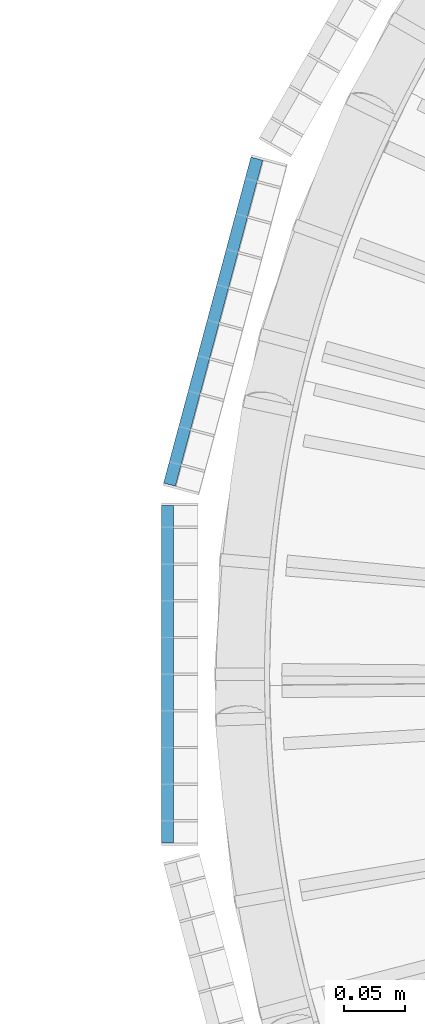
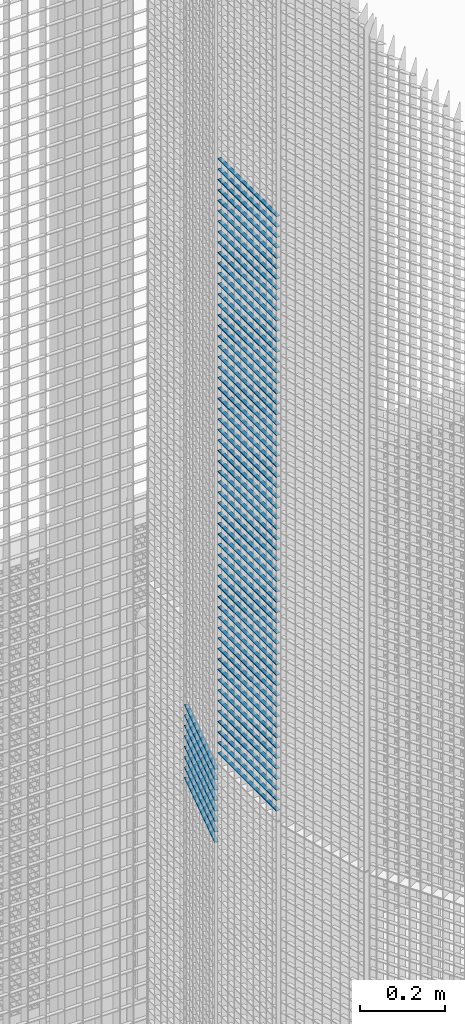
# One storey, part 183 of 1148: 66 beams, 2 elements without a shape of their own.
"""IFC2X3 building model written with IfcOpenShell, lengths in millimetres."""

from ifc_helpers import new_model, si_unit, frame, origin_with_axes, origin_2d_with_axis, place, context, subcontext, project, spatial, rectangle, extrude, material, type_object, element, aggregate, save


model = new_model("IFC2X3")

# Units and contexts
model_context = context("Model", 3, precision=1e-05, world=origin_with_axes())
body_context = subcontext(model_context, "Body", "Model", "MODEL_VIEW")
ifc_project = project(units=[si_unit("LENGTHUNIT", "METRE", prefix="MILLI"), si_unit("AREAUNIT", "SQUARE_METRE"), si_unit("VOLUMEUNIT", "CUBIC_METRE"), si_unit("MASSUNIT", "GRAM", prefix="KILO"), si_unit("TIMEUNIT", "SECOND"), si_unit("PLANEANGLEUNIT", "RADIAN"), si_unit("SOLIDANGLEUNIT", "STERADIAN"), si_unit("THERMODYNAMICTEMPERATUREUNIT", "DEGREE_CELSIUS"), si_unit("LUMINOUSINTENSITYUNIT", "LUMEN")], contexts=[model_context])

# Site, building, storey
site_placement = place(None, origin_with_axes())
site = spatial("IfcSite", under=ifc_project, at=site_placement, Name="Undefined", CompositionType="ELEMENT")
building_placement = place(site_placement, origin_with_axes())
building = spatial("IfcBuilding", under=site, at=building_placement, Name="Undefined", CompositionType="ELEMENT")
storey_placement = place(building_placement, origin_with_axes())
storey = spatial("IfcBuildingStorey", under=building, at=storey_placement, Name="Undefined", CompositionType="ELEMENT", Elevation=0.0)

# Assembly, beams
assembly_1_placement = place(storey_placement, origin_with_axes())
assembly_1 = element("IfcElementAssembly", 1, at=assembly_1_placement, inside=storey, Name="BORDURE", AssemblyPlace="NOTDEFINED", PredefinedType="NOTDEFINED")
ifc_material = material(Name="STEEL/S235JR")
beam_type = type_object("IfcBeamType", Name="PL2*10", PredefinedType="NOTDEFINED")
beam_1_placement = place(assembly_1_placement, frame((-1113.47999999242, 137.996003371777, 16740.0), z_axis=(-1.0, 0.0, 0.0), x_axis=(0.0, -1.0, 0.0)))
beam_1 = element("IfcBeam", 2, at=beam_1_placement, type_object=beam_type, material=ifc_material, Name="ENTRETOISE", context=body_context, shape_type="SweptSolid", body=[
    extrude(rectangle(XDim=2.0, YDim=10.0, at=origin_2d_with_axis()), frame((275.999999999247, 9.09494701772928e-13, 1.53210777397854e-14), z_axis=(-1.0, 0.0, 0.0), x_axis=(0.0, -1.0, 0.0)), (0.0, 0.0, 1.0), 276.0),
])
beam_2_placement = place(assembly_1_placement, frame((-1113.47999999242, 137.996003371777, 16710.0), z_axis=(-1.0, 0.0, 0.0), x_axis=(0.0, -1.0, 0.0)))
beam_2 = element("IfcBeam", 3, at=beam_2_placement, type_object=beam_type, material=ifc_material, Name="ENTRETOISE", context=body_context, shape_type="SweptSolid", body=[
    extrude(rectangle(XDim=2.0, YDim=10.0, at=origin_2d_with_axis()), frame((275.999999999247, 9.09494701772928e-13, 1.53210777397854e-14), z_axis=(-1.0, 0.0, 0.0), x_axis=(0.0, -1.0, 0.0)), (0.0, 0.0, 1.0), 276.0),
])
beam_3_placement = place(assembly_1_placement, frame((-1113.47999999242, 137.996003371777, 16680.0), z_axis=(-1.0, 0.0, 0.0), x_axis=(0.0, -1.0, 0.0)))
beam_3 = element("IfcBeam", 4, at=beam_3_placement, type_object=beam_type, material=ifc_material, Name="ENTRETOISE", context=body_context, shape_type="SweptSolid", body=[
    extrude(rectangle(XDim=2.0, YDim=10.0, at=origin_2d_with_axis()), frame((275.999999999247, 9.09494701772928e-13, 1.53210777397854e-14), z_axis=(-1.0, 0.0, 0.0), x_axis=(0.0, -1.0, 0.0)), (0.0, 0.0, 1.0), 276.0),
])
beam_4_placement = place(assembly_1_placement, frame((-1113.47999999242, 137.996003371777, 16650.0), z_axis=(-1.0, 0.0, 0.0), x_axis=(0.0, -1.0, 0.0)))
beam_4 = element("IfcBeam", 5, at=beam_4_placement, type_object=beam_type, material=ifc_material, Name="ENTRETOISE", context=body_context, shape_type="SweptSolid", body=[
    extrude(rectangle(XDim=2.0, YDim=10.0, at=origin_2d_with_axis()), frame((275.999999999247, 9.09494701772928e-13, 1.53210777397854e-14), z_axis=(-1.0, 0.0, 0.0), x_axis=(0.0, -1.0, 0.0)), (0.0, 0.0, 1.0), 276.0),
])
beam_5_placement = place(assembly_1_placement, frame((-1113.47999999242, 137.996003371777, 16620.0), z_axis=(-1.0, 0.0, 0.0), x_axis=(0.0, -1.0, 0.0)))
beam_5 = element("IfcBeam", 6, at=beam_5_placement, type_object=beam_type, material=ifc_material, Name="ENTRETOISE", context=body_context, shape_type="SweptSolid", body=[
    extrude(rectangle(XDim=2.0, YDim=10.0, at=origin_2d_with_axis()), frame((275.999999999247, 9.09494701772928e-13, 1.53210777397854e-14), z_axis=(-1.0, 0.0, 0.0), x_axis=(0.0, -1.0, 0.0)), (0.0, 0.0, 1.0), 276.0),
])
beam_6_placement = place(assembly_1_placement, frame((-1113.47999999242, 137.996003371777, 16590.0), z_axis=(-1.0, 0.0, 0.0), x_axis=(0.0, -1.0, 0.0)))
beam_6 = element("IfcBeam", 7, at=beam_6_placement, type_object=beam_type, material=ifc_material, Name="ENTRETOISE", context=body_context, shape_type="SweptSolid", body=[
    extrude(rectangle(XDim=2.0, YDim=10.0, at=origin_2d_with_axis()), frame((275.999999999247, 9.09494701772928e-13, 1.53210777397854e-14), z_axis=(-1.0, 0.0, 0.0), x_axis=(0.0, -1.0, 0.0)), (0.0, 0.0, 1.0), 276.0),
])
beam_7_placement = place(assembly_1_placement, frame((-1113.47999999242, 137.996003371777, 16560.0), z_axis=(-1.0, 0.0, 0.0), x_axis=(0.0, -1.0, 0.0)))
beam_7 = element("IfcBeam", 8, at=beam_7_placement, type_object=beam_type, material=ifc_material, Name="ENTRETOISE", context=body_context, shape_type="SweptSolid", body=[
    extrude(rectangle(XDim=2.0, YDim=10.0, at=origin_2d_with_axis()), frame((275.999999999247, 9.09494701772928e-13, 1.53210777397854e-14), z_axis=(-1.0, 0.0, 0.0), x_axis=(0.0, -1.0, 0.0)), (0.0, 0.0, 1.0), 276.0),
])
beam_8_placement = place(assembly_1_placement, frame((-1113.47999999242, 137.996003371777, 16530.0), z_axis=(-1.0, 0.0, 0.0), x_axis=(0.0, -1.0, 0.0)))
beam_8 = element("IfcBeam", 9, at=beam_8_placement, type_object=beam_type, material=ifc_material, Name="ENTRETOISE", context=body_context, shape_type="SweptSolid", body=[
    extrude(rectangle(XDim=2.0, YDim=10.0, at=origin_2d_with_axis()), frame((275.999999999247, 9.09494701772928e-13, 1.53210777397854e-14), z_axis=(-1.0, 0.0, 0.0), x_axis=(0.0, -1.0, 0.0)), (0.0, 0.0, 1.0), 276.0),
])
beam_9_placement = place(assembly_1_placement, frame((-1113.47999999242, 137.996003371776, 16500.0), z_axis=(-1.0, 0.0, 0.0), x_axis=(0.0, -1.0, 0.0)))
beam_9 = element("IfcBeam", 10, at=beam_9_placement, type_object=beam_type, material=ifc_material, Name="ENTRETOISE", context=body_context, shape_type="SweptSolid", body=[
    extrude(rectangle(XDim=2.0, YDim=10.0, at=origin_2d_with_axis()), frame((275.999999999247, 9.09494701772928e-13, 1.53210777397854e-14), z_axis=(-1.0, 0.0, 0.0), x_axis=(0.0, -1.0, 0.0)), (0.0, 0.0, 1.0), 276.0),
])
beam_10_placement = place(assembly_1_placement, frame((-1113.47999999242, 137.996003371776, 16470.0), z_axis=(-1.0, 0.0, 0.0), x_axis=(0.0, -1.0, 0.0)))
beam_10 = element("IfcBeam", 11, at=beam_10_placement, type_object=beam_type, material=ifc_material, Name="ENTRETOISE", context=body_context, shape_type="SweptSolid", body=[
    extrude(rectangle(XDim=2.0, YDim=10.0, at=origin_2d_with_axis()), frame((275.999999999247, 9.09494701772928e-13, 1.53210777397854e-14), z_axis=(-1.0, 0.0, 0.0), x_axis=(0.0, -1.0, 0.0)), (0.0, 0.0, 1.0), 276.0),
])
beam_11_placement = place(assembly_1_placement, frame((-1113.47999999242, 137.996003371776, 16440.0), z_axis=(-1.0, 0.0, 0.0), x_axis=(0.0, -1.0, 0.0)))
beam_11 = element("IfcBeam", 12, at=beam_11_placement, type_object=beam_type, material=ifc_material, Name="ENTRETOISE", context=body_context, shape_type="SweptSolid", body=[
    extrude(rectangle(XDim=2.0, YDim=10.0, at=origin_2d_with_axis()), frame((275.999999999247, 9.09494701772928e-13, 1.53210777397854e-14), z_axis=(-1.0, 0.0, 0.0), x_axis=(0.0, -1.0, 0.0)), (0.0, 0.0, 1.0), 276.0),
])
beam_12_placement = place(assembly_1_placement, frame((-1113.47999999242, 137.996003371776, 16410.0), z_axis=(-1.0, 0.0, 0.0), x_axis=(0.0, -1.0, 0.0)))
beam_12 = element("IfcBeam", 13, at=beam_12_placement, type_object=beam_type, material=ifc_material, Name="ENTRETOISE", context=body_context, shape_type="SweptSolid", body=[
    extrude(rectangle(XDim=2.0, YDim=10.0, at=origin_2d_with_axis()), frame((275.999999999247, 9.09494701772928e-13, 1.53210777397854e-14), z_axis=(-1.0, 0.0, 0.0), x_axis=(0.0, -1.0, 0.0)), (0.0, 0.0, 1.0), 276.0),
])
beam_13_placement = place(assembly_1_placement, frame((-1113.47999999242, 137.996003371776, 16380.0), z_axis=(-1.0, 0.0, 0.0), x_axis=(0.0, -1.0, 0.0)))
beam_13 = element("IfcBeam", 14, at=beam_13_placement, type_object=beam_type, material=ifc_material, Name="ENTRETOISE", context=body_context, shape_type="SweptSolid", body=[
    extrude(rectangle(XDim=2.0, YDim=10.0, at=origin_2d_with_axis()), frame((275.999999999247, 9.09494701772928e-13, 1.53210777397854e-14), z_axis=(-1.0, 0.0, 0.0), x_axis=(0.0, -1.0, 0.0)), (0.0, 0.0, 1.0), 276.0),
])
beam_14_placement = place(assembly_1_placement, frame((-1113.47999999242, 137.996003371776, 16350.0), z_axis=(-1.0, 0.0, 0.0), x_axis=(0.0, -1.0, 0.0)))
beam_14 = element("IfcBeam", 15, at=beam_14_placement, type_object=beam_type, material=ifc_material, Name="ENTRETOISE", context=body_context, shape_type="SweptSolid", body=[
    extrude(rectangle(XDim=2.0, YDim=10.0, at=origin_2d_with_axis()), frame((275.999999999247, 9.09494701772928e-13, 1.53210777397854e-14), z_axis=(-1.0, 0.0, 0.0), x_axis=(0.0, -1.0, 0.0)), (0.0, 0.0, 1.0), 276.0),
])
beam_15_placement = place(assembly_1_placement, frame((-1113.47999999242, 137.996003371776, 16320.0), z_axis=(-1.0, 0.0, 0.0), x_axis=(0.0, -1.0, 0.0)))
beam_15 = element("IfcBeam", 16, at=beam_15_placement, type_object=beam_type, material=ifc_material, Name="ENTRETOISE", context=body_context, shape_type="SweptSolid", body=[
    extrude(rectangle(XDim=2.0, YDim=10.0, at=origin_2d_with_axis()), frame((275.999999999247, 9.09494701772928e-13, 1.53210777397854e-14), z_axis=(-1.0, 0.0, 0.0), x_axis=(0.0, -1.0, 0.0)), (0.0, 0.0, 1.0), 276.0),
])
beam_16_placement = place(assembly_1_placement, frame((-1113.47999999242, 137.996003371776, 16290.0), z_axis=(-1.0, 0.0, 0.0), x_axis=(0.0, -1.0, 0.0)))
beam_16 = element("IfcBeam", 17, at=beam_16_placement, type_object=beam_type, material=ifc_material, Name="ENTRETOISE", context=body_context, shape_type="SweptSolid", body=[
    extrude(rectangle(XDim=2.0, YDim=10.0, at=origin_2d_with_axis()), frame((275.999999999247, 9.09494701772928e-13, 1.53210777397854e-14), z_axis=(-1.0, 0.0, 0.0), x_axis=(0.0, -1.0, 0.0)), (0.0, 0.0, 1.0), 276.0),
])
beam_17_placement = place(assembly_1_placement, frame((-1113.47999999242, 137.996003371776, 16260.0), z_axis=(-1.0, 0.0, 0.0), x_axis=(0.0, -1.0, 0.0)))
beam_17 = element("IfcBeam", 18, at=beam_17_placement, type_object=beam_type, material=ifc_material, Name="ENTRETOISE", context=body_context, shape_type="SweptSolid", body=[
    extrude(rectangle(XDim=2.0, YDim=10.0, at=origin_2d_with_axis()), frame((275.999999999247, 9.09494701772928e-13, 1.53210777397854e-14), z_axis=(-1.0, 0.0, 0.0), x_axis=(0.0, -1.0, 0.0)), (0.0, 0.0, 1.0), 276.0),
])
beam_18_placement = place(assembly_1_placement, frame((-1113.47999999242, 137.996003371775, 16230.0), z_axis=(-1.0, 0.0, 0.0), x_axis=(0.0, -1.0, 0.0)))
beam_18 = element("IfcBeam", 19, at=beam_18_placement, type_object=beam_type, material=ifc_material, Name="ENTRETOISE", context=body_context, shape_type="SweptSolid", body=[
    extrude(rectangle(XDim=2.0, YDim=10.0, at=origin_2d_with_axis()), frame((275.999999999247, 9.09494701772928e-13, 1.53210777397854e-14), z_axis=(-1.0, 0.0, 0.0), x_axis=(0.0, -1.0, 0.0)), (0.0, 0.0, 1.0), 276.0),
])
beam_19_placement = place(assembly_1_placement, frame((-1113.47999999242, 137.996003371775, 16200.0), z_axis=(-1.0, 0.0, 0.0), x_axis=(0.0, -1.0, 0.0)))
beam_19 = element("IfcBeam", 20, at=beam_19_placement, type_object=beam_type, material=ifc_material, Name="ENTRETOISE", context=body_context, shape_type="SweptSolid", body=[
    extrude(rectangle(XDim=2.0, YDim=10.0, at=origin_2d_with_axis()), frame((275.999999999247, 9.09494701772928e-13, 1.53210777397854e-14), z_axis=(-1.0, 0.0, 0.0), x_axis=(0.0, -1.0, 0.0)), (0.0, 0.0, 1.0), 276.0),
])
beam_20_placement = place(assembly_1_placement, frame((-1113.47999999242, 137.996003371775, 16170.0), z_axis=(-1.0, 0.0, 0.0), x_axis=(0.0, -1.0, 0.0)))
beam_20 = element("IfcBeam", 21, at=beam_20_placement, type_object=beam_type, material=ifc_material, Name="ENTRETOISE", context=body_context, shape_type="SweptSolid", body=[
    extrude(rectangle(XDim=2.0, YDim=10.0, at=origin_2d_with_axis()), frame((275.999999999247, 9.09494701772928e-13, 1.53210777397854e-14), z_axis=(-1.0, 0.0, 0.0), x_axis=(0.0, -1.0, 0.0)), (0.0, 0.0, 1.0), 276.0),
])
beam_21_placement = place(assembly_1_placement, frame((-1113.47999999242, 137.996003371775, 16140.0), z_axis=(-1.0, 0.0, 0.0), x_axis=(0.0, -1.0, 0.0)))
beam_21 = element("IfcBeam", 22, at=beam_21_placement, type_object=beam_type, material=ifc_material, Name="ENTRETOISE", context=body_context, shape_type="SweptSolid", body=[
    extrude(rectangle(XDim=2.0, YDim=10.0, at=origin_2d_with_axis()), frame((275.999999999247, 9.09494701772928e-13, 1.53210777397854e-14), z_axis=(-1.0, 0.0, 0.0), x_axis=(0.0, -1.0, 0.0)), (0.0, 0.0, 1.0), 276.0),
])
beam_22_placement = place(assembly_1_placement, frame((-1113.47999999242, 137.996003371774, 15720.0), z_axis=(-1.0, 0.0, 0.0), x_axis=(0.0, -1.0, 0.0)))
beam_22 = element("IfcBeam", 23, at=beam_22_placement, type_object=beam_type, material=ifc_material, Name="ENTRETOISE", context=body_context, shape_type="SweptSolid", body=[
    extrude(rectangle(XDim=2.0, YDim=10.0, at=origin_2d_with_axis()), frame((275.999999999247, 9.09494701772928e-13, 1.53210777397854e-14), z_axis=(-1.0, 0.0, 0.0), x_axis=(0.0, -1.0, 0.0)), (0.0, 0.0, 1.0), 276.0),
])
beam_23_placement = place(assembly_1_placement, frame((-1113.47999999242, 137.996003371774, 15690.0), z_axis=(-1.0, 0.0, 0.0), x_axis=(0.0, -1.0, 0.0)))
beam_23 = element("IfcBeam", 24, at=beam_23_placement, type_object=beam_type, material=ifc_material, Name="ENTRETOISE", context=body_context, shape_type="SweptSolid", body=[
    extrude(rectangle(XDim=2.0, YDim=10.0, at=origin_2d_with_axis()), frame((275.999999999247, 9.09494701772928e-13, 1.53210777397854e-14), z_axis=(-1.0, 0.0, 0.0), x_axis=(0.0, -1.0, 0.0)), (0.0, 0.0, 1.0), 276.0),
])
beam_24_placement = place(assembly_1_placement, frame((-1113.47999999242, 137.996003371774, 15750.0), z_axis=(-1.0, 0.0, 0.0), x_axis=(0.0, -1.0, 0.0)))
beam_24 = element("IfcBeam", 25, at=beam_24_placement, type_object=beam_type, material=ifc_material, Name="ENTRETOISE", context=body_context, shape_type="SweptSolid", body=[
    extrude(rectangle(XDim=2.0, YDim=10.0, at=origin_2d_with_axis()), frame((275.999999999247, 9.09494701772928e-13, 1.53210777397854e-14), z_axis=(-1.0, 0.0, 0.0), x_axis=(0.0, -1.0, 0.0)), (0.0, 0.0, 1.0), 276.0),
])
beam_25_placement = place(assembly_1_placement, frame((-1113.47999999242, 137.996003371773, 15660.0), z_axis=(-1.0, 0.0, 0.0), x_axis=(0.0, -1.0, 0.0)))
beam_25 = element("IfcBeam", 26, at=beam_25_placement, type_object=beam_type, material=ifc_material, Name="ENTRETOISE", context=body_context, shape_type="SweptSolid", body=[
    extrude(rectangle(XDim=2.0, YDim=10.0, at=origin_2d_with_axis()), frame((275.999999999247, 9.09494701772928e-13, 1.53210777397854e-14), z_axis=(-1.0, 0.0, 0.0), x_axis=(0.0, -1.0, 0.0)), (0.0, 0.0, 1.0), 276.0),
])
beam_26_placement = place(assembly_1_placement, frame((-1113.47999999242, 137.996003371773, 15630.0), z_axis=(-1.0, 0.0, 0.0), x_axis=(0.0, -1.0, 0.0)))
beam_26 = element("IfcBeam", 27, at=beam_26_placement, type_object=beam_type, material=ifc_material, Name="ENTRETOISE", context=body_context, shape_type="SweptSolid", body=[
    extrude(rectangle(XDim=2.0, YDim=10.0, at=origin_2d_with_axis()), frame((275.999999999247, 9.09494701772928e-13, 1.53210777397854e-14), z_axis=(-1.0, 0.0, 0.0), x_axis=(0.0, -1.0, 0.0)), (0.0, 0.0, 1.0), 276.0),
])
beam_27_placement = place(assembly_1_placement, frame((-1113.47999999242, 137.996003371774, 15780.0), z_axis=(-1.0, 0.0, 0.0), x_axis=(0.0, -1.0, 0.0)))
beam_27 = element("IfcBeam", 28, at=beam_27_placement, type_object=beam_type, material=ifc_material, Name="ENTRETOISE", context=body_context, shape_type="SweptSolid", body=[
    extrude(rectangle(XDim=2.0, YDim=10.0, at=origin_2d_with_axis()), frame((275.999999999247, 9.09494701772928e-13, 1.53210777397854e-14), z_axis=(-1.0, 0.0, 0.0), x_axis=(0.0, -1.0, 0.0)), (0.0, 0.0, 1.0), 276.0),
])
beam_28_placement = place(assembly_1_placement, frame((-1113.47999999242, 137.996003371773, 15600.0), z_axis=(-1.0, 0.0, 0.0), x_axis=(0.0, -1.0, 0.0)))
beam_28 = element("IfcBeam", 29, at=beam_28_placement, type_object=beam_type, material=ifc_material, Name="ENTRETOISE", context=body_context, shape_type="SweptSolid", body=[
    extrude(rectangle(XDim=2.0, YDim=10.0, at=origin_2d_with_axis()), frame((275.999999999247, 9.09494701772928e-13, 1.53210777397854e-14), z_axis=(-1.0, 0.0, 0.0), x_axis=(0.0, -1.0, 0.0)), (0.0, 0.0, 1.0), 276.0),
])
beam_29_placement = place(assembly_1_placement, frame((-1113.47999999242, 137.996003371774, 15810.0), z_axis=(-1.0, 0.0, 0.0), x_axis=(0.0, -1.0, 0.0)))
beam_29 = element("IfcBeam", 30, at=beam_29_placement, type_object=beam_type, material=ifc_material, Name="ENTRETOISE", context=body_context, shape_type="SweptSolid", body=[
    extrude(rectangle(XDim=2.0, YDim=10.0, at=origin_2d_with_axis()), frame((275.999999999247, 9.09494701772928e-13, 1.53210777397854e-14), z_axis=(-1.0, 0.0, 0.0), x_axis=(0.0, -1.0, 0.0)), (0.0, 0.0, 1.0), 276.0),
])
beam_30_placement = place(assembly_1_placement, frame((-1113.47999999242, 137.996003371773, 15570.0), z_axis=(-1.0, 0.0, 0.0), x_axis=(0.0, -1.0, 0.0)))
beam_30 = element("IfcBeam", 31, at=beam_30_placement, type_object=beam_type, material=ifc_material, Name="ENTRETOISE", context=body_context, shape_type="SweptSolid", body=[
    extrude(rectangle(XDim=2.0, YDim=10.0, at=origin_2d_with_axis()), frame((275.999999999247, 9.09494701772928e-13, 1.53210777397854e-14), z_axis=(-1.0, 0.0, 0.0), x_axis=(0.0, -1.0, 0.0)), (0.0, 0.0, 1.0), 276.0),
])
beam_31_placement = place(assembly_1_placement, frame((-1113.47999999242, 137.996003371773, 15540.0), z_axis=(-1.0, 0.0, 0.0), x_axis=(0.0, -1.0, 0.0)))
beam_31 = element("IfcBeam", 32, at=beam_31_placement, type_object=beam_type, material=ifc_material, Name="ENTRETOISE", context=body_context, shape_type="SweptSolid", body=[
    extrude(rectangle(XDim=2.0, YDim=10.0, at=origin_2d_with_axis()), frame((275.999999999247, 9.09494701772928e-13, 1.53210777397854e-14), z_axis=(-1.0, 0.0, 0.0), x_axis=(0.0, -1.0, 0.0)), (0.0, 0.0, 1.0), 276.0),
])
beam_32_placement = place(assembly_1_placement, frame((-1113.47999999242, 137.996003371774, 15840.0), z_axis=(-1.0, 0.0, 0.0), x_axis=(0.0, -1.0, 0.0)))
beam_32 = element("IfcBeam", 33, at=beam_32_placement, type_object=beam_type, material=ifc_material, Name="ENTRETOISE", context=body_context, shape_type="SweptSolid", body=[
    extrude(rectangle(XDim=2.0, YDim=10.0, at=origin_2d_with_axis()), frame((275.999999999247, 9.09494701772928e-13, 1.53210777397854e-14), z_axis=(-1.0, 0.0, 0.0), x_axis=(0.0, -1.0, 0.0)), (0.0, 0.0, 1.0), 276.0),
])
beam_33_placement = place(assembly_1_placement, frame((-1113.47999999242, 137.996003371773, 15510.0), z_axis=(-1.0, 0.0, 0.0), x_axis=(0.0, -1.0, 0.0)))
beam_33 = element("IfcBeam", 34, at=beam_33_placement, type_object=beam_type, material=ifc_material, Name="ENTRETOISE", context=body_context, shape_type="SweptSolid", body=[
    extrude(rectangle(XDim=2.0, YDim=10.0, at=origin_2d_with_axis()), frame((275.999999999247, 9.09494701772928e-13, 1.53210777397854e-14), z_axis=(-1.0, 0.0, 0.0), x_axis=(0.0, -1.0, 0.0)), (0.0, 0.0, 1.0), 276.0),
])
beam_34_placement = place(assembly_1_placement, frame((-1113.47999999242, 137.996003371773, 15480.0), z_axis=(-1.0, 0.0, 0.0), x_axis=(0.0, -1.0, 0.0)))
beam_34 = element("IfcBeam", 35, at=beam_34_placement, type_object=beam_type, material=ifc_material, Name="ENTRETOISE", context=body_context, shape_type="SweptSolid", body=[
    extrude(rectangle(XDim=2.0, YDim=10.0, at=origin_2d_with_axis()), frame((275.999999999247, 9.09494701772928e-13, 1.53210777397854e-14), z_axis=(-1.0, 0.0, 0.0), x_axis=(0.0, -1.0, 0.0)), (0.0, 0.0, 1.0), 276.0),
])
beam_35_placement = place(assembly_1_placement, frame((-1113.47999999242, 137.996003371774, 15870.0), z_axis=(-1.0, 0.0, 0.0), x_axis=(0.0, -1.0, 0.0)))
beam_35 = element("IfcBeam", 36, at=beam_35_placement, type_object=beam_type, material=ifc_material, Name="ENTRETOISE", context=body_context, shape_type="SweptSolid", body=[
    extrude(rectangle(XDim=2.0, YDim=10.0, at=origin_2d_with_axis()), frame((275.999999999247, 9.09494701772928e-13, 1.53210777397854e-14), z_axis=(-1.0, 0.0, 0.0), x_axis=(0.0, -1.0, 0.0)), (0.0, 0.0, 1.0), 276.0),
])
beam_36_placement = place(assembly_1_placement, frame((-1113.47999999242, 137.996003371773, 15450.0), z_axis=(-1.0, 0.0, 0.0), x_axis=(0.0, -1.0, 0.0)))
beam_36 = element("IfcBeam", 37, at=beam_36_placement, type_object=beam_type, material=ifc_material, Name="ENTRETOISE", context=body_context, shape_type="SweptSolid", body=[
    extrude(rectangle(XDim=2.0, YDim=10.0, at=origin_2d_with_axis()), frame((275.999999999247, 9.09494701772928e-13, 1.53210777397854e-14), z_axis=(-1.0, 0.0, 0.0), x_axis=(0.0, -1.0, 0.0)), (0.0, 0.0, 1.0), 276.0),
])
beam_37_placement = place(assembly_1_placement, frame((-1113.47999999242, 137.996003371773, 15420.0), z_axis=(-1.0, 0.0, 0.0), x_axis=(0.0, -1.0, 0.0)))
beam_37 = element("IfcBeam", 38, at=beam_37_placement, type_object=beam_type, material=ifc_material, Name="ENTRETOISE", context=body_context, shape_type="SweptSolid", body=[
    extrude(rectangle(XDim=2.0, YDim=10.0, at=origin_2d_with_axis()), frame((275.999999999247, 9.09494701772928e-13, 1.53210777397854e-14), z_axis=(-1.0, 0.0, 0.0), x_axis=(0.0, -1.0, 0.0)), (0.0, 0.0, 1.0), 276.0),
])
beam_38_placement = place(assembly_1_placement, frame((-1113.47999999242, 137.996003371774, 15900.0), z_axis=(-1.0, 0.0, 0.0), x_axis=(0.0, -1.0, 0.0)))
beam_38 = element("IfcBeam", 39, at=beam_38_placement, type_object=beam_type, material=ifc_material, Name="ENTRETOISE", context=body_context, shape_type="SweptSolid", body=[
    extrude(rectangle(XDim=2.0, YDim=10.0, at=origin_2d_with_axis()), frame((275.999999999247, 9.09494701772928e-13, 1.53210777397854e-14), z_axis=(-1.0, 0.0, 0.0), x_axis=(0.0, -1.0, 0.0)), (0.0, 0.0, 1.0), 276.0),
])
beam_39_placement = place(assembly_1_placement, frame((-1113.47999999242, 137.996003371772, 15390.0), z_axis=(-1.0, 0.0, 0.0), x_axis=(0.0, -1.0, 0.0)))
beam_39 = element("IfcBeam", 40, at=beam_39_placement, type_object=beam_type, material=ifc_material, Name="ENTRETOISE", context=body_context, shape_type="SweptSolid", body=[
    extrude(rectangle(XDim=2.0, YDim=10.0, at=origin_2d_with_axis()), frame((275.999999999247, 9.09494701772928e-13, 1.53210777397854e-14), z_axis=(-1.0, 0.0, 0.0), x_axis=(0.0, -1.0, 0.0)), (0.0, 0.0, 1.0), 276.0),
])
beam_40_placement = place(assembly_1_placement, frame((-1113.47999999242, 137.996003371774, 15930.0), z_axis=(-1.0, 0.0, 0.0), x_axis=(0.0, -1.0, 0.0)))
beam_40 = element("IfcBeam", 41, at=beam_40_placement, type_object=beam_type, material=ifc_material, Name="ENTRETOISE", context=body_context, shape_type="SweptSolid", body=[
    extrude(rectangle(XDim=2.0, YDim=10.0, at=origin_2d_with_axis()), frame((275.999999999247, 9.09494701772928e-13, 1.53210777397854e-14), z_axis=(-1.0, 0.0, 0.0), x_axis=(0.0, -1.0, 0.0)), (0.0, 0.0, 1.0), 276.0),
])
beam_41_placement = place(assembly_1_placement, frame((-1113.47999999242, 137.996003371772, 15360.0), z_axis=(-1.0, 0.0, 0.0), x_axis=(0.0, -1.0, 0.0)))
beam_41 = element("IfcBeam", 42, at=beam_41_placement, type_object=beam_type, material=ifc_material, Name="ENTRETOISE", context=body_context, shape_type="SweptSolid", body=[
    extrude(rectangle(XDim=2.0, YDim=10.0, at=origin_2d_with_axis()), frame((275.999999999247, 9.09494701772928e-13, 1.53210777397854e-14), z_axis=(-1.0, 0.0, 0.0), x_axis=(0.0, -1.0, 0.0)), (0.0, 0.0, 1.0), 276.0),
])
beam_42_placement = place(assembly_1_placement, frame((-1113.47999999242, 137.996003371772, 15330.0), z_axis=(-1.0, 0.0, 0.0), x_axis=(0.0, -1.0, 0.0)))
beam_42 = element("IfcBeam", 43, at=beam_42_placement, type_object=beam_type, material=ifc_material, Name="ENTRETOISE", context=body_context, shape_type="SweptSolid", body=[
    extrude(rectangle(XDim=2.0, YDim=10.0, at=origin_2d_with_axis()), frame((275.999999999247, 9.09494701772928e-13, 1.53210777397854e-14), z_axis=(-1.0, 0.0, 0.0), x_axis=(0.0, -1.0, 0.0)), (0.0, 0.0, 1.0), 276.0),
])
beam_43_placement = place(assembly_1_placement, frame((-1113.47999999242, 137.996003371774, 15960.0), z_axis=(-1.0, 0.0, 0.0), x_axis=(0.0, -1.0, 0.0)))
beam_43 = element("IfcBeam", 44, at=beam_43_placement, type_object=beam_type, material=ifc_material, Name="ENTRETOISE", context=body_context, shape_type="SweptSolid", body=[
    extrude(rectangle(XDim=2.0, YDim=10.0, at=origin_2d_with_axis()), frame((275.999999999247, 9.09494701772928e-13, 1.53210777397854e-14), z_axis=(-1.0, 0.0, 0.0), x_axis=(0.0, -1.0, 0.0)), (0.0, 0.0, 1.0), 276.0),
])
beam_44_placement = place(assembly_1_placement, frame((-1113.47999999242, 137.996003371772, 15300.0), z_axis=(-1.0, 0.0, 0.0), x_axis=(0.0, -1.0, 0.0)))
beam_44 = element("IfcBeam", 45, at=beam_44_placement, type_object=beam_type, material=ifc_material, Name="ENTRETOISE", context=body_context, shape_type="SweptSolid", body=[
    extrude(rectangle(XDim=2.0, YDim=10.0, at=origin_2d_with_axis()), frame((275.999999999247, 9.09494701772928e-13, 1.53210777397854e-14), z_axis=(-1.0, 0.0, 0.0), x_axis=(0.0, -1.0, 0.0)), (0.0, 0.0, 1.0), 276.0),
])
beam_45_placement = place(assembly_1_placement, frame((-1113.47999999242, 137.996003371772, 15270.0), z_axis=(-1.0, 0.0, 0.0), x_axis=(0.0, -1.0, 0.0)))
beam_45 = element("IfcBeam", 46, at=beam_45_placement, type_object=beam_type, material=ifc_material, Name="ENTRETOISE", context=body_context, shape_type="SweptSolid", body=[
    extrude(rectangle(XDim=2.0, YDim=10.0, at=origin_2d_with_axis()), frame((275.999999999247, 9.09494701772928e-13, 1.53210777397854e-14), z_axis=(-1.0, 0.0, 0.0), x_axis=(0.0, -1.0, 0.0)), (0.0, 0.0, 1.0), 276.0),
])
beam_46_placement = place(assembly_1_placement, frame((-1113.47999999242, 137.996003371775, 15990.0), z_axis=(-1.0, 0.0, 0.0), x_axis=(0.0, -1.0, 0.0)))
beam_46 = element("IfcBeam", 47, at=beam_46_placement, type_object=beam_type, material=ifc_material, Name="ENTRETOISE", context=body_context, shape_type="SweptSolid", body=[
    extrude(rectangle(XDim=2.0, YDim=10.0, at=origin_2d_with_axis()), frame((275.999999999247, 9.09494701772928e-13, 1.53210777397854e-14), z_axis=(-1.0, 0.0, 0.0), x_axis=(0.0, -1.0, 0.0)), (0.0, 0.0, 1.0), 276.0),
])
beam_47_placement = place(assembly_1_placement, frame((-1113.47999999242, 137.996003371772, 15240.0), z_axis=(-1.0, 0.0, 0.0), x_axis=(0.0, -1.0, 0.0)))
beam_47 = element("IfcBeam", 48, at=beam_47_placement, type_object=beam_type, material=ifc_material, Name="ENTRETOISE", context=body_context, shape_type="SweptSolid", body=[
    extrude(rectangle(XDim=2.0, YDim=10.0, at=origin_2d_with_axis()), frame((275.999999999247, 9.09494701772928e-13, 1.53210777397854e-14), z_axis=(-1.0, 0.0, 0.0), x_axis=(0.0, -1.0, 0.0)), (0.0, 0.0, 1.0), 276.0),
])
beam_48_placement = place(assembly_1_placement, frame((-1113.47999999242, 137.996003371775, 16020.0), z_axis=(-1.0, 0.0, 0.0), x_axis=(0.0, -1.0, 0.0)))
beam_48 = element("IfcBeam", 49, at=beam_48_placement, type_object=beam_type, material=ifc_material, Name="ENTRETOISE", context=body_context, shape_type="SweptSolid", body=[
    extrude(rectangle(XDim=2.0, YDim=10.0, at=origin_2d_with_axis()), frame((275.999999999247, 9.09494701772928e-13, 1.53210777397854e-14), z_axis=(-1.0, 0.0, 0.0), x_axis=(0.0, -1.0, 0.0)), (0.0, 0.0, 1.0), 276.0),
])
beam_49_placement = place(assembly_1_placement, frame((-1113.47999999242, 137.996003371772, 15210.0), z_axis=(-1.0, 0.0, 0.0), x_axis=(0.0, -1.0, 0.0)))
beam_49 = element("IfcBeam", 50, at=beam_49_placement, type_object=beam_type, material=ifc_material, Name="ENTRETOISE", context=body_context, shape_type="SweptSolid", body=[
    extrude(rectangle(XDim=2.0, YDim=10.0, at=origin_2d_with_axis()), frame((275.999999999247, 9.09494701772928e-13, 1.53210777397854e-14), z_axis=(-1.0, 0.0, 0.0), x_axis=(0.0, -1.0, 0.0)), (0.0, 0.0, 1.0), 276.0),
])
beam_50_placement = place(assembly_1_placement, frame((-1113.47999999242, 137.996003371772, 15180.0), z_axis=(-1.0, 0.0, 0.0), x_axis=(0.0, -1.0, 0.0)))
beam_50 = element("IfcBeam", 51, at=beam_50_placement, type_object=beam_type, material=ifc_material, Name="ENTRETOISE", context=body_context, shape_type="SweptSolid", body=[
    extrude(rectangle(XDim=2.0, YDim=10.0, at=origin_2d_with_axis()), frame((275.999999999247, 9.09494701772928e-13, 1.53210777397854e-14), z_axis=(-1.0, 0.0, 0.0), x_axis=(0.0, -1.0, 0.0)), (0.0, 0.0, 1.0), 276.0),
])
beam_51_placement = place(assembly_1_placement, frame((-1113.47999999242, 137.996003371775, 16050.0), z_axis=(-1.0, 0.0, 0.0), x_axis=(0.0, -1.0, 0.0)))
beam_51 = element("IfcBeam", 52, at=beam_51_placement, type_object=beam_type, material=ifc_material, Name="ENTRETOISE", context=body_context, shape_type="SweptSolid", body=[
    extrude(rectangle(XDim=2.0, YDim=10.0, at=origin_2d_with_axis()), frame((275.999999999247, 9.09494701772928e-13, 1.53210777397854e-14), z_axis=(-1.0, 0.0, 0.0), x_axis=(0.0, -1.0, 0.0)), (0.0, 0.0, 1.0), 276.0),
])
beam_52_placement = place(assembly_1_placement, frame((-1113.47999999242, 137.996003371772, 15150.0), z_axis=(-1.0, 0.0, 0.0), x_axis=(0.0, -1.0, 0.0)))
beam_52 = element("IfcBeam", 53, at=beam_52_placement, type_object=beam_type, material=ifc_material, Name="ENTRETOISE", context=body_context, shape_type="SweptSolid", body=[
    extrude(rectangle(XDim=2.0, YDim=10.0, at=origin_2d_with_axis()), frame((275.999999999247, 9.09494701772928e-13, 1.53210777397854e-14), z_axis=(-1.0, 0.0, 0.0), x_axis=(0.0, -1.0, 0.0)), (0.0, 0.0, 1.0), 276.0),
])
beam_53_placement = place(assembly_1_placement, frame((-1113.47999999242, 137.996003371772, 15120.0), z_axis=(-1.0, 0.0, 0.0), x_axis=(0.0, -1.0, 0.0)))
beam_53 = element("IfcBeam", 54, at=beam_53_placement, type_object=beam_type, material=ifc_material, Name="ENTRETOISE", context=body_context, shape_type="SweptSolid", body=[
    extrude(rectangle(XDim=2.0, YDim=10.0, at=origin_2d_with_axis()), frame((275.999999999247, 9.09494701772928e-13, 1.53210777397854e-14), z_axis=(-1.0, 0.0, 0.0), x_axis=(0.0, -1.0, 0.0)), (0.0, 0.0, 1.0), 276.0),
])
beam_54_placement = place(assembly_1_placement, frame((-1113.47999999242, 137.996003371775, 16080.0), z_axis=(-1.0, 0.0, 0.0), x_axis=(0.0, -1.0, 0.0)))
beam_54 = element("IfcBeam", 55, at=beam_54_placement, type_object=beam_type, material=ifc_material, Name="ENTRETOISE", context=body_context, shape_type="SweptSolid", body=[
    extrude(rectangle(XDim=2.0, YDim=10.0, at=origin_2d_with_axis()), frame((275.999999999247, 9.09494701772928e-13, 1.53210777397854e-14), z_axis=(-1.0, 0.0, 0.0), x_axis=(0.0, -1.0, 0.0)), (0.0, 0.0, 1.0), 276.0),
])
beam_55_placement = place(assembly_1_placement, frame((-1113.47999999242, 137.996003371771, 15090.0), z_axis=(-1.0, 0.0, 0.0), x_axis=(0.0, -1.0, 0.0)))
beam_55 = element("IfcBeam", 56, at=beam_55_placement, type_object=beam_type, material=ifc_material, Name="ENTRETOISE", context=body_context, shape_type="SweptSolid", body=[
    extrude(rectangle(XDim=2.0, YDim=10.0, at=origin_2d_with_axis()), frame((275.999999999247, 9.09494701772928e-13, 1.53210777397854e-14), z_axis=(-1.0, 0.0, 0.0), x_axis=(0.0, -1.0, 0.0)), (0.0, 0.0, 1.0), 276.0),
])
beam_56_placement = place(assembly_1_placement, frame((-1113.47999999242, 137.996003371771, 15060.0), z_axis=(-1.0, 0.0, 0.0), x_axis=(0.0, -1.0, 0.0)))
beam_56 = element("IfcBeam", 57, at=beam_56_placement, type_object=beam_type, material=ifc_material, Name="ENTRETOISE", context=body_context, shape_type="SweptSolid", body=[
    extrude(rectangle(XDim=2.0, YDim=10.0, at=origin_2d_with_axis()), frame((275.999999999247, 9.09494701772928e-13, 1.53210777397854e-14), z_axis=(-1.0, 0.0, 0.0), x_axis=(0.0, -1.0, 0.0)), (0.0, 0.0, 1.0), 276.0),
])
beam_57_placement = place(assembly_1_placement, frame((-1113.47999999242, 137.996003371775, 16110.0), z_axis=(-1.0, 0.0, 0.0), x_axis=(0.0, -1.0, 0.0)))
beam_57 = element("IfcBeam", 58, at=beam_57_placement, type_object=beam_type, material=ifc_material, Name="ENTRETOISE", context=body_context, shape_type="SweptSolid", body=[
    extrude(rectangle(XDim=2.0, YDim=10.0, at=origin_2d_with_axis()), frame((275.999999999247, 9.09494701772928e-13, 1.53210777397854e-14), z_axis=(-1.0, 0.0, 0.0), x_axis=(0.0, -1.0, 0.0)), (0.0, 0.0, 1.0), 276.0),
])
beam_58_placement = place(assembly_1_placement, frame((-1113.47999999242, 137.99600337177, 15030.0), z_axis=(-1.0, 0.0, 0.0), x_axis=(0.0, -1.0, 0.0)))
beam_58 = element("IfcBeam", 59, at=beam_58_placement, type_object=beam_type, material=ifc_material, Name="ENTRETOISE", context=body_context, shape_type="SweptSolid", body=[
    extrude(rectangle(XDim=2.0, YDim=10.0, at=origin_2d_with_axis()), frame((275.999999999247, 9.09494701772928e-13, 1.53210777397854e-14), z_axis=(-1.0, 0.0, 0.0), x_axis=(0.0, -1.0, 0.0)), (0.0, 0.0, 1.0), 276.0),
])
aggregate(assembly_1, [beam_1, beam_2, beam_3, beam_4, beam_5, beam_6, beam_7, beam_8, beam_9, beam_10, beam_11, beam_12, beam_13, beam_14, beam_15, beam_16, beam_17, beam_18, beam_19, beam_20, beam_21, beam_22, beam_23, beam_24, beam_25, beam_26, beam_27, beam_28, beam_29, beam_30, beam_31, beam_32, beam_33, beam_34, beam_35, beam_36, beam_37, beam_38, beam_39, beam_40, beam_41, beam_42, beam_43, beam_44, beam_45, beam_46, beam_47, beam_48, beam_49, beam_50, beam_51, beam_52, beam_53, beam_54, beam_55, beam_56, beam_57, beam_58])

assembly_2_placement = place(storey_placement, origin_with_axes())
assembly_2 = element("IfcElementAssembly", 60, at=assembly_2_placement, inside=storey, Name="BORDURE", AssemblyPlace="NOTDEFINED", PredefinedType="NOTDEFINED")
beam_59_placement = place(assembly_2_placement, frame((-1040.30888419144, 421.61803829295, 14970.0), z_axis=(-0.965925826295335, 0.258819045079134, 0.0), x_axis=(-0.258819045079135, -0.965925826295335, 0.0)))
beam_59 = element("IfcBeam", 61, at=beam_59_placement, type_object=beam_type, material=ifc_material, Name="ENTRETOISE", context=body_context, shape_type="SweptSolid", body=[
    extrude(rectangle(XDim=2.0, YDim=10.0, at=origin_2d_with_axis()), frame((275.999999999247, 9.09494701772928e-13, 1.53210777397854e-14), z_axis=(-1.0, 0.0, 0.0), x_axis=(0.0, -1.0, 0.0)), (0.0, 0.0, 1.0), 276.0),
])
beam_60_placement = place(assembly_2_placement, frame((-1040.30888419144, 421.61803829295, 14940.0), z_axis=(-0.965925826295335, 0.258819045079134, 0.0), x_axis=(-0.258819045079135, -0.965925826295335, 0.0)))
beam_60 = element("IfcBeam", 62, at=beam_60_placement, type_object=beam_type, material=ifc_material, Name="ENTRETOISE", context=body_context, shape_type="SweptSolid", body=[
    extrude(rectangle(XDim=2.0, YDim=10.0, at=origin_2d_with_axis()), frame((275.999999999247, 9.09494701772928e-13, 1.53210777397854e-14), z_axis=(-1.0, 0.0, 0.0), x_axis=(0.0, -1.0, 0.0)), (0.0, 0.0, 1.0), 276.0),
])
beam_61_placement = place(assembly_2_placement, frame((-1040.30888419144, 421.61803829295, 14910.0), z_axis=(-0.965925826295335, 0.258819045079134, 0.0), x_axis=(-0.258819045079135, -0.965925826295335, 0.0)))
beam_61 = element("IfcBeam", 63, at=beam_61_placement, type_object=beam_type, material=ifc_material, Name="ENTRETOISE", context=body_context, shape_type="SweptSolid", body=[
    extrude(rectangle(XDim=2.0, YDim=10.0, at=origin_2d_with_axis()), frame((275.999999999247, 9.09494701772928e-13, 1.53210777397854e-14), z_axis=(-1.0, 0.0, 0.0), x_axis=(0.0, -1.0, 0.0)), (0.0, 0.0, 1.0), 276.0),
])
beam_62_placement = place(assembly_2_placement, frame((-1040.30888419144, 421.61803829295, 14880.0), z_axis=(-0.965925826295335, 0.258819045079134, 0.0), x_axis=(-0.258819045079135, -0.965925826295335, 0.0)))
beam_62 = element("IfcBeam", 64, at=beam_62_placement, type_object=beam_type, material=ifc_material, Name="ENTRETOISE", context=body_context, shape_type="SweptSolid", body=[
    extrude(rectangle(XDim=2.0, YDim=10.0, at=origin_2d_with_axis()), frame((275.999999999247, 9.09494701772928e-13, 1.53210777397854e-14), z_axis=(-1.0, 0.0, 0.0), x_axis=(0.0, -1.0, 0.0)), (0.0, 0.0, 1.0), 276.0),
])
beam_63_placement = place(assembly_2_placement, frame((-1040.30888419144, 421.61803829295, 14850.0), z_axis=(-0.965925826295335, 0.258819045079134, 0.0), x_axis=(-0.258819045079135, -0.965925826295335, 0.0)))
beam_63 = element("IfcBeam", 65, at=beam_63_placement, type_object=beam_type, material=ifc_material, Name="ENTRETOISE", context=body_context, shape_type="SweptSolid", body=[
    extrude(rectangle(XDim=2.0, YDim=10.0, at=origin_2d_with_axis()), frame((275.999999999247, 9.09494701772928e-13, 1.53210777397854e-14), z_axis=(-1.0, 0.0, 0.0), x_axis=(0.0, -1.0, 0.0)), (0.0, 0.0, 1.0), 276.0),
])
beam_64_placement = place(assembly_2_placement, frame((-1040.30888419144, 421.61803829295, 14820.0), z_axis=(-0.965925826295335, 0.258819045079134, 0.0), x_axis=(-0.258819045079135, -0.965925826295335, 0.0)))
beam_64 = element("IfcBeam", 66, at=beam_64_placement, type_object=beam_type, material=ifc_material, Name="ENTRETOISE", context=body_context, shape_type="SweptSolid", body=[
    extrude(rectangle(XDim=2.0, YDim=10.0, at=origin_2d_with_axis()), frame((275.999999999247, 9.09494701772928e-13, 1.53210777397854e-14), z_axis=(-1.0, 0.0, 0.0), x_axis=(0.0, -1.0, 0.0)), (0.0, 0.0, 1.0), 276.0),
])
beam_65_placement = place(assembly_2_placement, frame((-1040.30888419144, 421.61803829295, 14790.0), z_axis=(-0.965925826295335, 0.258819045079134, 0.0), x_axis=(-0.258819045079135, -0.965925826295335, 0.0)))
beam_65 = element("IfcBeam", 67, at=beam_65_placement, type_object=beam_type, material=ifc_material, Name="ENTRETOISE", context=body_context, shape_type="SweptSolid", body=[
    extrude(rectangle(XDim=2.0, YDim=10.0, at=origin_2d_with_axis()), frame((275.999999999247, 9.09494701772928e-13, 1.53210777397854e-14), z_axis=(-1.0, 0.0, 0.0), x_axis=(0.0, -1.0, 0.0)), (0.0, 0.0, 1.0), 276.0),
])
beam_66_placement = place(assembly_2_placement, frame((-1040.30888419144, 421.61803829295, 14760.0), z_axis=(-0.965925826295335, 0.258819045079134, 0.0), x_axis=(-0.258819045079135, -0.965925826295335, 0.0)))
beam_66 = element("IfcBeam", 68, at=beam_66_placement, type_object=beam_type, material=ifc_material, Name="ENTRETOISE", context=body_context, shape_type="SweptSolid", body=[
    extrude(rectangle(XDim=2.0, YDim=10.0, at=origin_2d_with_axis()), frame((275.999999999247, 9.09494701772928e-13, 1.53210777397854e-14), z_axis=(-1.0, 0.0, 0.0), x_axis=(0.0, -1.0, 0.0)), (0.0, 0.0, 1.0), 276.0),
])
aggregate(assembly_2, [beam_59, beam_60, beam_61, beam_62, beam_63, beam_64, beam_65, beam_66])

save(model, "model.ifc")
